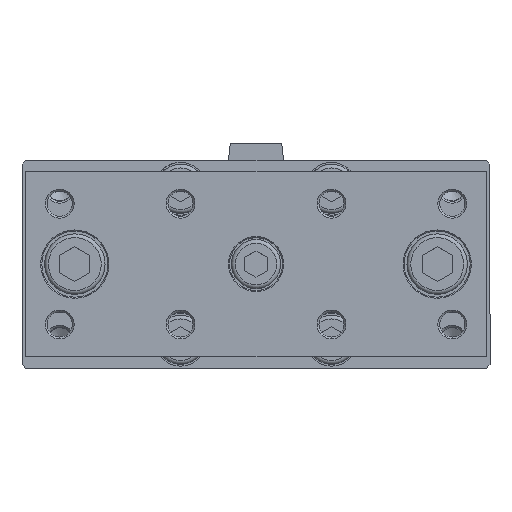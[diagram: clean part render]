
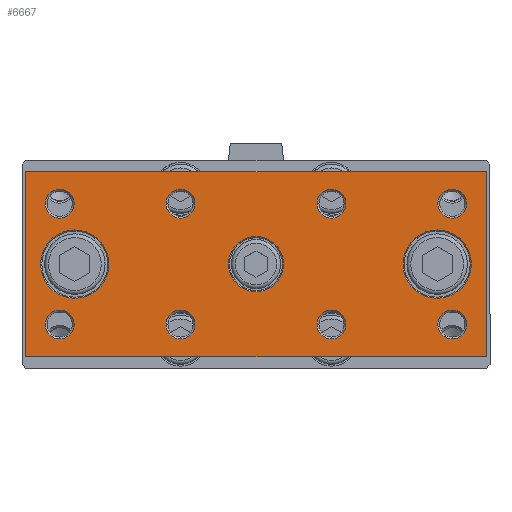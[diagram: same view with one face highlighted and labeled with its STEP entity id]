
A CAD part, top view. The second image highlights one B-rep face of the part: STEP entity #6667.
In plain terms, the highlighted planar face has unit normal (0, 0, 1).
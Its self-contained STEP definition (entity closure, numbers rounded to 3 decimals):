
#6503=CARTESIAN_POINT('',(-38.352,1.555,143.5));
#6504=VERTEX_POINT('',#6503);
#6505=CARTESIAN_POINT('',(-47.402,1.555,143.5));
#6506=DIRECTION('',(0.0,0.0,1.0));
#6507=DIRECTION('',(-1.0,0.0,0.0));
#6508=AXIS2_PLACEMENT_3D('',#6505,#6506,#6507);
#6509=CIRCLE('',#6508,9.05);
#6510=EDGE_CURVE('',#6504,#6504,#6509,.T.);
#6515=CARTESIAN_POINT('',(0.598,5.555,143.5));
#6516=DIRECTION('',(0.0,0.0,1.0));
#6517=DIRECTION('',(1.0,0.0,0.0));
#6518=AXIS2_PLACEMENT_3D('',#6515,#6516,#6517);
#6519=PLANE('',#6518);
#6520=CARTESIAN_POINT('',(61.598,26.055,143.5));
#6521=VERTEX_POINT('',#6520);
#6522=CARTESIAN_POINT('',(61.598,-22.945,143.5));
#6523=VERTEX_POINT('',#6522);
#6524=CARTESIAN_POINT('',(61.598,26.055,143.5));
#6525=DIRECTION('',(0.0,-1.0,0.0));
#6526=VECTOR('',#6525,49.);
#6527=LINE('',#6524,#6526);
#6528=EDGE_CURVE('',#6521,#6523,#6527,.T.);
#6529=ORIENTED_EDGE('',*,*,#6528,.F.);
#6530=CARTESIAN_POINT('',(-60.402,26.055,143.5));
#6531=VERTEX_POINT('',#6530);
#6532=CARTESIAN_POINT('',(-60.402,26.055,143.5));
#6533=DIRECTION('',(1.0,0.0,0.0));
#6534=VECTOR('',#6533,122.0);
#6535=LINE('',#6532,#6534);
#6536=EDGE_CURVE('',#6531,#6521,#6535,.T.);
#6537=ORIENTED_EDGE('',*,*,#6536,.F.);
#6538=CARTESIAN_POINT('',(-60.402,-22.945,143.5));
#6539=VERTEX_POINT('',#6538);
#6540=CARTESIAN_POINT('',(-60.402,-22.945,143.5));
#6541=DIRECTION('',(0.0,1.0,0.0));
#6542=VECTOR('',#6541,49.);
#6543=LINE('',#6540,#6542);
#6544=EDGE_CURVE('',#6539,#6531,#6543,.T.);
#6545=ORIENTED_EDGE('',*,*,#6544,.F.);
#6546=CARTESIAN_POINT('',(61.598,-22.945,143.5));
#6547=DIRECTION('',(-1.0,0.0,0.0));
#6548=VECTOR('',#6547,122.);
#6549=LINE('',#6546,#6548);
#6550=EDGE_CURVE('',#6523,#6539,#6549,.T.);
#6551=ORIENTED_EDGE('',*,*,#6550,.F.);
#6552=EDGE_LOOP('',(#6529,#6537,#6545,#6551));
#6553=FACE_OUTER_BOUND('',#6552,.T.);
#6554=CARTESIAN_POINT('',(7.898,1.555,143.5));
#6555=VERTEX_POINT('',#6554);
#6556=CARTESIAN_POINT('',(0.598,1.555,143.5));
#6557=DIRECTION('',(0.0,0.0,1.0));
#6558=DIRECTION('',(-1.0,0.0,0.0));
#6559=AXIS2_PLACEMENT_3D('',#6556,#6557,#6558);
#6560=CIRCLE('',#6559,7.3);
#6561=EDGE_CURVE('',#6555,#6555,#6560,.T.);
#6562=ORIENTED_EDGE('',*,*,#6561,.F.);
#6563=EDGE_LOOP('',(#6562));
#6564=FACE_BOUND('',#6563,.T.);
#6565=CARTESIAN_POINT('',(24.422,-14.445,143.5));
#6566=VERTEX_POINT('',#6565);
#6567=CARTESIAN_POINT('',(20.598,-14.445,143.5));
#6568=DIRECTION('',(0.0,0.0,1.0));
#6569=DIRECTION('',(-1.0,0.0,0.0));
#6570=AXIS2_PLACEMENT_3D('',#6567,#6568,#6569);
#6571=CIRCLE('',#6570,3.824);
#6572=EDGE_CURVE('',#6566,#6566,#6571,.T.);
#6573=ORIENTED_EDGE('',*,*,#6572,.F.);
#6574=EDGE_LOOP('',(#6573));
#6575=FACE_BOUND('',#6574,.T.);
#6576=CARTESIAN_POINT('',(-47.578,-14.445,143.5));
#6577=VERTEX_POINT('',#6576);
#6578=CARTESIAN_POINT('',(-51.402,-14.445,143.5));
#6579=DIRECTION('',(0.0,0.0,1.0));
#6580=DIRECTION('',(-1.0,0.0,0.0));
#6581=AXIS2_PLACEMENT_3D('',#6578,#6579,#6580);
#6582=CIRCLE('',#6581,3.823);
#6583=EDGE_CURVE('',#6577,#6577,#6582,.T.);
#6584=ORIENTED_EDGE('',*,*,#6583,.F.);
#6585=EDGE_LOOP('',(#6584));
#6586=FACE_BOUND('',#6585,.T.);
#6587=CARTESIAN_POINT('',(56.422,17.555,143.5));
#6588=VERTEX_POINT('',#6587);
#6589=CARTESIAN_POINT('',(52.598,17.555,143.5));
#6590=DIRECTION('',(0.0,0.0,1.0));
#6591=DIRECTION('',(-1.0,0.0,0.0));
#6592=AXIS2_PLACEMENT_3D('',#6589,#6590,#6591);
#6593=CIRCLE('',#6592,3.823);
#6594=EDGE_CURVE('',#6588,#6588,#6593,.T.);
#6595=ORIENTED_EDGE('',*,*,#6594,.F.);
#6596=EDGE_LOOP('',(#6595));
#6597=FACE_BOUND('',#6596,.T.);
#6598=CARTESIAN_POINT('',(56.422,-14.445,143.5));
#6599=VERTEX_POINT('',#6598);
#6600=CARTESIAN_POINT('',(52.598,-14.445,143.5));
#6601=DIRECTION('',(0.0,0.0,1.0));
#6602=DIRECTION('',(-1.0,0.0,0.0));
#6603=AXIS2_PLACEMENT_3D('',#6600,#6601,#6602);
#6604=CIRCLE('',#6603,3.823);
#6605=EDGE_CURVE('',#6599,#6599,#6604,.T.);
#6606=ORIENTED_EDGE('',*,*,#6605,.F.);
#6607=EDGE_LOOP('',(#6606));
#6608=FACE_BOUND('',#6607,.T.);
#6609=CARTESIAN_POINT('',(-47.578,17.555,143.5));
#6610=VERTEX_POINT('',#6609);
#6611=CARTESIAN_POINT('',(-51.402,17.555,143.5));
#6612=DIRECTION('',(0.0,0.0,1.0));
#6613=DIRECTION('',(-1.0,0.0,0.0));
#6614=AXIS2_PLACEMENT_3D('',#6611,#6612,#6613);
#6615=CIRCLE('',#6614,3.823);
#6616=EDGE_CURVE('',#6610,#6610,#6615,.T.);
#6617=ORIENTED_EDGE('',*,*,#6616,.F.);
#6618=EDGE_LOOP('',(#6617));
#6619=FACE_BOUND('',#6618,.T.);
#6620=CARTESIAN_POINT('',(-15.578,17.555,143.5));
#6621=VERTEX_POINT('',#6620);
#6622=CARTESIAN_POINT('',(-19.402,17.555,143.5));
#6623=DIRECTION('',(0.0,0.0,1.0));
#6624=DIRECTION('',(-1.0,0.0,0.0));
#6625=AXIS2_PLACEMENT_3D('',#6622,#6623,#6624);
#6626=CIRCLE('',#6625,3.823);
#6627=EDGE_CURVE('',#6621,#6621,#6626,.T.);
#6628=ORIENTED_EDGE('',*,*,#6627,.F.);
#6629=EDGE_LOOP('',(#6628));
#6630=FACE_BOUND('',#6629,.T.);
#6631=CARTESIAN_POINT('',(24.422,17.555,143.5));
#6632=VERTEX_POINT('',#6631);
#6633=CARTESIAN_POINT('',(20.598,17.555,143.5));
#6634=DIRECTION('',(0.0,0.0,1.0));
#6635=DIRECTION('',(-1.0,0.0,0.0));
#6636=AXIS2_PLACEMENT_3D('',#6633,#6634,#6635);
#6637=CIRCLE('',#6636,3.824);
#6638=EDGE_CURVE('',#6632,#6632,#6637,.T.);
#6639=ORIENTED_EDGE('',*,*,#6638,.F.);
#6640=EDGE_LOOP('',(#6639));
#6641=FACE_BOUND('',#6640,.T.);
#6642=CARTESIAN_POINT('',(-15.578,-14.445,143.5));
#6643=VERTEX_POINT('',#6642);
#6644=CARTESIAN_POINT('',(-19.402,-14.445,143.5));
#6645=DIRECTION('',(0.0,0.0,1.0));
#6646=DIRECTION('',(-1.0,0.0,0.0));
#6647=AXIS2_PLACEMENT_3D('',#6644,#6645,#6646);
#6648=CIRCLE('',#6647,3.823);
#6649=EDGE_CURVE('',#6643,#6643,#6648,.T.);
#6650=ORIENTED_EDGE('',*,*,#6649,.F.);
#6651=EDGE_LOOP('',(#6650));
#6652=FACE_BOUND('',#6651,.T.);
#6653=CARTESIAN_POINT('',(57.648,1.555,143.5));
#6654=VERTEX_POINT('',#6653);
#6655=CARTESIAN_POINT('',(48.598,1.555,143.5));
#6656=DIRECTION('',(0.0,0.0,1.0));
#6657=DIRECTION('',(-1.0,0.0,0.0));
#6658=AXIS2_PLACEMENT_3D('',#6655,#6656,#6657);
#6659=CIRCLE('',#6658,9.05);
#6660=EDGE_CURVE('',#6654,#6654,#6659,.T.);
#6661=ORIENTED_EDGE('',*,*,#6660,.F.);
#6662=EDGE_LOOP('',(#6661));
#6663=FACE_BOUND('',#6662,.T.);
#6664=ORIENTED_EDGE('',*,*,#6510,.F.);
#6665=EDGE_LOOP('',(#6664));
#6666=FACE_BOUND('',#6665,.T.);
#6667=ADVANCED_FACE('',(#6553,#6564,#6575,#6586,#6597,#6608,#6619,#6630,#6641,#6652,#6663,#6666),#6519,.T.);
